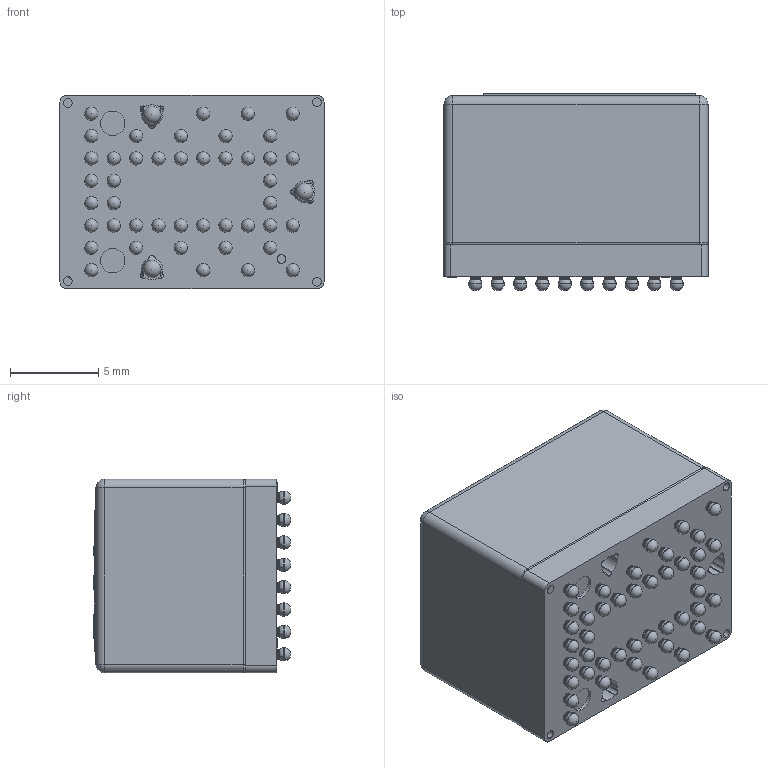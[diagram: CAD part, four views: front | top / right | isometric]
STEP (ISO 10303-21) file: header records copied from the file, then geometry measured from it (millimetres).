
FILE_DESCRIPTION (( 'STEP AP214' ), '1' );
FILE_NAME ('ADIS16477-1BMLZ.STEP', '2017-10-13T19:33:17', ( '' ), ( '' ), 'SwSTEP 2.0', 'SolidWorks 2016', '' );
FILE_SCHEMA (( 'AUTOMOTIVE_DESIGN' ));
Length unit declared in the file: millimetre
Products named in the file (8): horizontal brd bga new pattern 127 040716; 4470 adhesive; horizontal with vertical b; horizontal minus vertical; ball 2; lABEL-2; ADIS16477-1BMLZ; Cover GS10909
Assembly tree (50 placements, depth 4):
  ADIS16477-1BMLZ
    horizontal with vertical b
      horizontal minus vertical
        horizontal brd bga new pattern 127 040716
        ball 2  x44
    4470 adhesive
    Cover GS10909
    lABEL-2
Bounding box: 15 x 11.21 x 11 mm (x, y, z)
Volume: 621.6 mm3; surface area: 1975.5 mm2
Topology: 95 solids, 95 shells, 1408 faces, 3266 edges, 2032 vertices
Faces by surface type: plane 596, cylinder 401, torus 192, bspline 164, sphere 55
Entity records: 40488 total; most frequent: CARTESIAN_POINT 12816, ORIENTED_EDGE 4662, DIRECTION 4246, EDGE_CURVE 2331, VECTOR 1514, LINE 1514, VERTEX_POINT 1508, AXIS2_PLACEMENT_3D 1366
